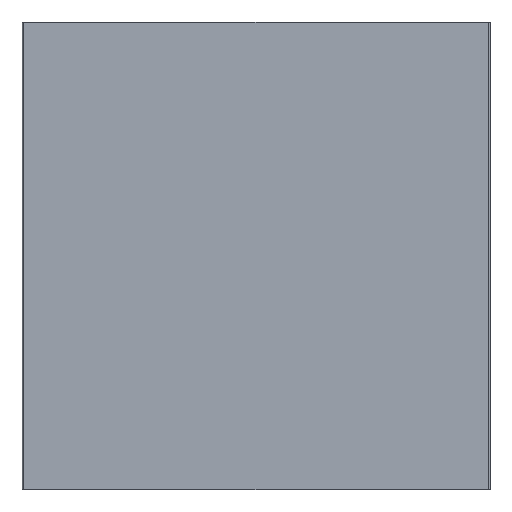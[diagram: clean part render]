
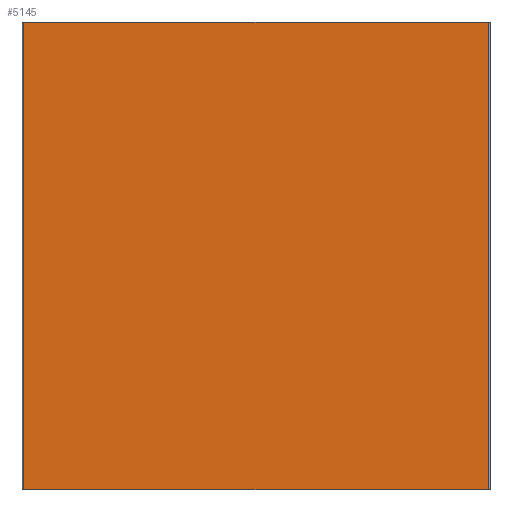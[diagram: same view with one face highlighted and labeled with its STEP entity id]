
A CAD part, front view. The second image highlights one B-rep face of the part: STEP entity #5145.
In plain terms, the highlighted planar face has unit normal (0, -1, 0).
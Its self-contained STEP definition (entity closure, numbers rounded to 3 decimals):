
#5 = DIRECTION ( 'NONE',  ( 1., 0., 0. ) ) ;
#89 = ORIENTED_EDGE ( 'NONE', *, *, #3762, .F. ) ;
#175 = EDGE_CURVE ( 'NONE', #191, #531, #4191, .T. ) ;
#191 = VERTEX_POINT ( 'NONE', #3782 ) ;
#341 = VECTOR ( 'NONE', #5, 1000. ) ;
#502 = CARTESIAN_POINT ( 'NONE',  ( 201.748, 67.665, 0. ) ) ;
#531 = VERTEX_POINT ( 'NONE', #502 ) ;
#616 = VECTOR ( 'NONE', #3279, 1000. ) ;
#731 = VERTEX_POINT ( 'NONE', #1933 ) ;
#760 = CARTESIAN_POINT ( 'NONE',  ( 201.748, 67.665, 200. ) ) ;
#857 = DIRECTION ( 'NONE',  ( 0., 0., -1. ) ) ;
#1191 = PLANE ( 'NONE',  #4612 ) ;
#1442 = EDGE_LOOP ( 'NONE', ( #2594, #89, #2052, #3082 ) ) ;
#1593 = VECTOR ( 'NONE', #857, 1000. ) ;
#1601 = DIRECTION ( 'NONE',  ( 0., 0., 1. ) ) ;
#1800 = CARTESIAN_POINT ( 'NONE',  ( 400.148, 67.665, 200. ) ) ;
#1933 = CARTESIAN_POINT ( 'NONE',  ( 400.148, 67.665, 0. ) ) ;
#2052 = ORIENTED_EDGE ( 'NONE', *, *, #4647, .F. ) ;
#2087 = CARTESIAN_POINT ( 'NONE',  ( 201.748, 67.665, 200. ) ) ;
#2594 = ORIENTED_EDGE ( 'NONE', *, *, #5121, .T. ) ;
#2901 = LINE ( 'NONE', #1800, #5113 ) ;
#2997 = LINE ( 'NONE', #4497, #616 ) ;
#3082 = ORIENTED_EDGE ( 'NONE', *, *, #175, .T. ) ;
#3279 = DIRECTION ( 'NONE',  ( 1., 0., 0. ) ) ;
#3762 = EDGE_CURVE ( 'NONE', #4585, #731, #2901, .T. ) ;
#3782 = CARTESIAN_POINT ( 'NONE',  ( 201.748, 67.665, 200. ) ) ;
#3831 = LINE ( 'NONE', #5056, #341 ) ;
#4035 = CARTESIAN_POINT ( 'NONE',  ( 400.148, 67.665, 200. ) ) ;
#4104 = DIRECTION ( 'NONE',  ( 0., 1., 0. ) ) ;
#4191 = LINE ( 'NONE', #2087, #1593 ) ;
#4284 = DIRECTION ( 'NONE',  ( 0., 0., -1. ) ) ;
#4497 = CARTESIAN_POINT ( 'NONE',  ( 201.748, 67.665, 0. ) ) ;
#4585 = VERTEX_POINT ( 'NONE', #4035 ) ;
#4612 = AXIS2_PLACEMENT_3D ( 'NONE', #760, #4104, #1601 ) ;
#4647 = EDGE_CURVE ( 'NONE', #191, #4585, #3831, .T. ) ;
#4946 = FACE_OUTER_BOUND ( 'NONE', #1442, .T. ) ;
#5056 = CARTESIAN_POINT ( 'NONE',  ( 201.748, 67.665, 200. ) ) ;
#5113 = VECTOR ( 'NONE', #4284, 1000. ) ;
#5121 = EDGE_CURVE ( 'NONE', #531, #731, #2997, .T. ) ;
#5145 = ADVANCED_FACE ( 'NONE', ( #4946 ), #1191, .F. ) ;
